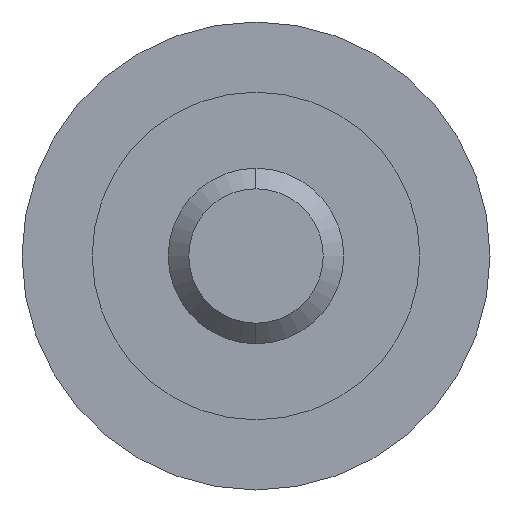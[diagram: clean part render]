
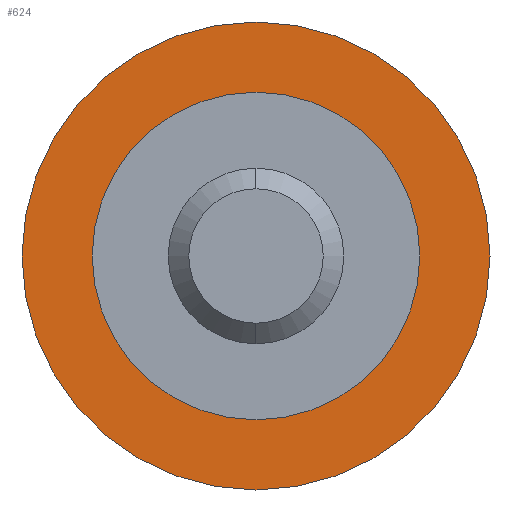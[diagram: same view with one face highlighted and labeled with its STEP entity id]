
A CAD part, left-side view. The second image highlights one B-rep face of the part: STEP entity #624.
In plain terms, the highlighted planar face has unit normal (-1, 0, 0).
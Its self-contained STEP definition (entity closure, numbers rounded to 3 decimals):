
#13 = EDGE_CURVE ( 'NONE', #135, #557, #247, .T. ) ;
#38 = AXIS2_PLACEMENT_3D ( 'NONE', #301, #513, #47 ) ;
#46 = DIRECTION ( 'NONE',  ( 0., 0., -1. ) ) ;
#47 = DIRECTION ( 'NONE',  ( 0., 0., 1. ) ) ;
#50 = DIRECTION ( 'NONE',  ( 0., 0., 1. ) ) ;
#80 = ORIENTED_EDGE ( 'NONE', *, *, #267, .F. ) ;
#87 = AXIS2_PLACEMENT_3D ( 'NONE', #504, #298, #46 ) ;
#94 = ORIENTED_EDGE ( 'NONE', *, *, #96, .T. ) ;
#96 = EDGE_CURVE ( 'NONE', #605, #549, #585, .T. ) ;
#104 = DIRECTION ( 'NONE',  ( 0., 0., 1. ) ) ;
#108 = DIRECTION ( 'NONE',  ( -1., 0., 0. ) ) ;
#130 = ORIENTED_EDGE ( 'NONE', *, *, #478, .T. ) ;
#131 = AXIS2_PLACEMENT_3D ( 'NONE', #330, #273, #104 ) ;
#135 = VERTEX_POINT ( 'NONE', #618 ) ;
#180 = CARTESIAN_POINT ( 'NONE',  ( -4., 0., -4. ) ) ;
#185 = CIRCLE ( 'NONE', #472, 2.8 ) ;
#204 = EDGE_LOOP ( 'NONE', ( #293, #80 ) ) ;
#247 = CIRCLE ( 'NONE', #38, 2.8 ) ;
#267 = EDGE_CURVE ( 'NONE', #557, #135, #185, .T. ) ;
#273 = DIRECTION ( 'NONE',  ( -1., 0., 0. ) ) ;
#293 = ORIENTED_EDGE ( 'NONE', *, *, #13, .F. ) ;
#298 = DIRECTION ( 'NONE',  ( 1., 0., 0. ) ) ;
#301 = CARTESIAN_POINT ( 'NONE',  ( -4., 0., 0. ) ) ;
#320 = DIRECTION ( 'NONE',  ( 0., 0., 1. ) ) ;
#330 = CARTESIAN_POINT ( 'NONE',  ( -4., 0., 0. ) ) ;
#396 = CARTESIAN_POINT ( 'NONE',  ( -4., 0., -2.8 ) ) ;
#411 = FACE_BOUND ( 'NONE', #204, .T. ) ;
#418 = CARTESIAN_POINT ( 'NONE',  ( -4., 0., 0. ) ) ;
#461 = AXIS2_PLACEMENT_3D ( 'NONE', #418, #578, #50 ) ;
#472 = AXIS2_PLACEMENT_3D ( 'NONE', #492, #108, #320 ) ;
#478 = EDGE_CURVE ( 'NONE', #549, #605, #665, .T. ) ;
#492 = CARTESIAN_POINT ( 'NONE',  ( -4., 0., 0. ) ) ;
#504 = CARTESIAN_POINT ( 'NONE',  ( -4., 2.8, 0. ) ) ;
#512 = FACE_OUTER_BOUND ( 'NONE', #562, .T. ) ;
#513 = DIRECTION ( 'NONE',  ( -1., 0., 0. ) ) ;
#521 = CARTESIAN_POINT ( 'NONE',  ( -4., 0., 4. ) ) ;
#549 = VERTEX_POINT ( 'NONE', #180 ) ;
#557 = VERTEX_POINT ( 'NONE', #396 ) ;
#559 = PLANE ( 'NONE',  #87 ) ;
#562 = EDGE_LOOP ( 'NONE', ( #94, #130 ) ) ;
#578 = DIRECTION ( 'NONE',  ( -1., 0., 0. ) ) ;
#585 = CIRCLE ( 'NONE', #461, 4. ) ;
#605 = VERTEX_POINT ( 'NONE', #521 ) ;
#618 = CARTESIAN_POINT ( 'NONE',  ( -4., 0., 2.8 ) ) ;
#624 = ADVANCED_FACE ( 'NONE', ( #411, #512 ), #559, .F. ) ;
#665 = CIRCLE ( 'NONE', #131, 4. ) ;
